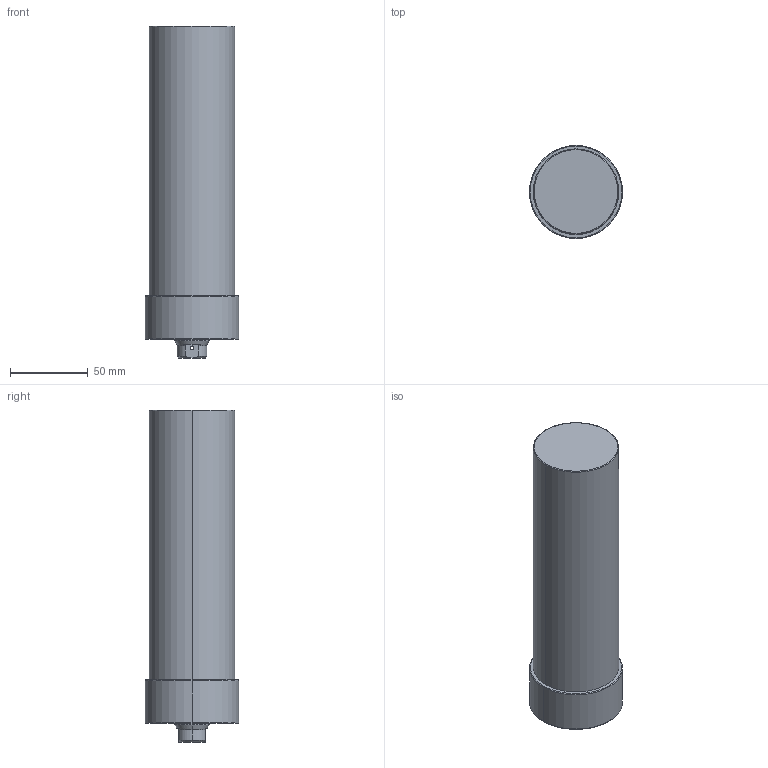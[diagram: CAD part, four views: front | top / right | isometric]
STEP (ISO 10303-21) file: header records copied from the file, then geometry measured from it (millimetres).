
FILE_DESCRIPTION (( 'STEP AP203' ), '1' );
FILE_NAME ('CLLU-055GB-145.STEP', '2020-01-06T07:26:31', ( '' ), ( '' ), 'SwSTEP 2.0', 'SolidWorks 2015', '' );
FILE_SCHEMA (( 'CONFIG_CONTROL_DESIGN' ));
Length unit declared in the file: millimetre
Products named in the file (1): CLLU-055GB-145
Bounding box: 60 x 60 x 214 mm (x, y, z)
Volume: 492853.2 mm3; surface area: 43436.2 mm2
Topology: 1 solids, 1 shells, 68 faces, 155 edges, 88 vertices
Faces by surface type: cylinder 27, cone 25, plane 10, torus 6
Entity records: 2021 total; most frequent: CARTESIAN_POINT 422, DIRECTION 350, ORIENTED_EDGE 290, AXIS2_PLACEMENT_3D 148, EDGE_CURVE 145, VERTEX_POINT 88, EDGE_LOOP 81, CIRCLE 79
